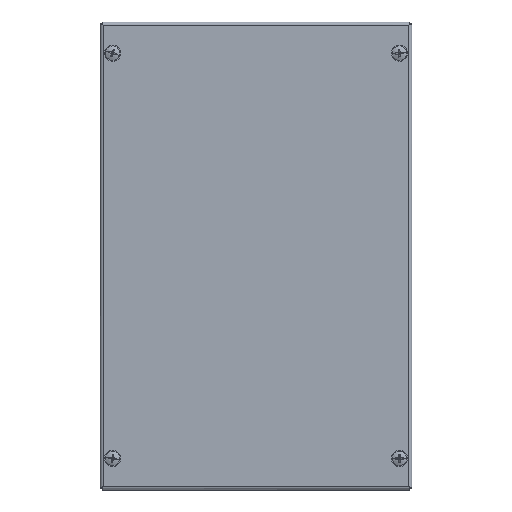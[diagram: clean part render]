
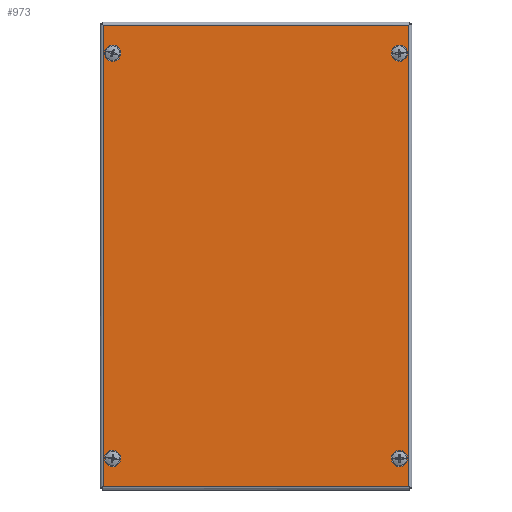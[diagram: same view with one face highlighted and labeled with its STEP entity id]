
A CAD part, top view. The second image highlights one B-rep face of the part: STEP entity #973.
In plain terms, the highlighted planar face has unit normal (0, 0, 1) as drawn and (0, 0, -1) by its records, which use the part's own axes.
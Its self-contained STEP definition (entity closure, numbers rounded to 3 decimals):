
#132 = CIRCLE ( 'NONE', #12108, 4. ) ;
#187 = CARTESIAN_POINT ( 'NONE',  ( -134., -92., -1.2 ) ) ;
#261 = LINE ( 'NONE', #9300, #5181 ) ;
#266 = DIRECTION ( 'NONE',  ( -1., 0., 0. ) ) ;
#347 = AXIS2_PLACEMENT_3D ( 'NONE', #5204, #8581, #13366 ) ;
#648 = FACE_BOUND ( 'NONE', #13507, .T. ) ;
#829 = CARTESIAN_POINT ( 'NONE',  ( 126., 92., -1.2 ) ) ;
#973 = ADVANCED_FACE ( 'NONE', ( #1911, #8789, #648, #11349, #14075 ), #2345, .F. ) ;
#974 = EDGE_CURVE ( 'NONE', #14217, #1042, #1538, .T. ) ;
#1042 = VERTEX_POINT ( 'NONE', #1268 ) ;
#1156 = VERTEX_POINT ( 'NONE', #5686 ) ;
#1188 = CARTESIAN_POINT ( 'NONE',  ( -130., 92., -1.2 ) ) ;
#1268 = CARTESIAN_POINT ( 'NONE',  ( -148.063, 98.063, -1.2 ) ) ;
#1277 = EDGE_CURVE ( 'NONE', #6025, #1156, #7339, .T. ) ;
#1538 = LINE ( 'NONE', #13854, #10983 ) ;
#1584 = CARTESIAN_POINT ( 'NONE',  ( 148.063, 98.093, -1.2 ) ) ;
#1602 = DIRECTION ( 'NONE',  ( 1., 0., 0. ) ) ;
#1606 = CARTESIAN_POINT ( 'NONE',  ( 148.063, 98.063, -1.2 ) ) ;
#1620 = CARTESIAN_POINT ( 'NONE',  ( -126., -92., -1.2 ) ) ;
#1902 = DIRECTION ( 'NONE',  ( 0., 0., 1. ) ) ;
#1911 = FACE_BOUND ( 'NONE', #11113, .T. ) ;
#2000 = EDGE_CURVE ( 'NONE', #8201, #7479, #5704, .T. ) ;
#2148 = DIRECTION ( 'NONE',  ( 0., 0., 1. ) ) ;
#2219 = CIRCLE ( 'NONE', #12511, 4. ) ;
#2240 = DIRECTION ( 'NONE',  ( 0., 1., 0. ) ) ;
#2345 = PLANE ( 'NONE',  #8009 ) ;
#2520 = CIRCLE ( 'NONE', #3367, 4. ) ;
#3071 = DIRECTION ( 'NONE',  ( 1., 0., 0. ) ) ;
#3083 = EDGE_CURVE ( 'NONE', #3264, #9977, #2219, .T. ) ;
#3264 = VERTEX_POINT ( 'NONE', #14198 ) ;
#3367 = AXIS2_PLACEMENT_3D ( 'NONE', #6249, #13128, #4018 ) ;
#3490 = EDGE_LOOP ( 'NONE', ( #4835, #4737 ) ) ;
#3660 = CARTESIAN_POINT ( 'NONE',  ( 130., 92., -1.2 ) ) ;
#3834 = DIRECTION ( 'NONE',  ( 0., 0., 1. ) ) ;
#4018 = DIRECTION ( 'NONE',  ( 1., 0., 0. ) ) ;
#4208 = CARTESIAN_POINT ( 'NONE',  ( -148.093, 98.063, -1.2 ) ) ;
#4289 = CARTESIAN_POINT ( 'NONE',  ( -130., -92., -1.2 ) ) ;
#4486 = DIRECTION ( 'NONE',  ( 1., 0., 0. ) ) ;
#4678 = CIRCLE ( 'NONE', #9978, 4. ) ;
#4737 = ORIENTED_EDGE ( 'NONE', *, *, #12311, .T. ) ;
#4779 = CARTESIAN_POINT ( 'NONE',  ( -130., -92., -1.2 ) ) ;
#4835 = ORIENTED_EDGE ( 'NONE', *, *, #13434, .T. ) ;
#4969 = CARTESIAN_POINT ( 'NONE',  ( 126., -92., -1.2 ) ) ;
#5036 = CIRCLE ( 'NONE', #347, 4. ) ;
#5181 = VECTOR ( 'NONE', #266, 1000. ) ;
#5204 = CARTESIAN_POINT ( 'NONE',  ( -130., 92., -1.2 ) ) ;
#5447 = CARTESIAN_POINT ( 'NONE',  ( 134., -92., -1.2 ) ) ;
#5448 = EDGE_CURVE ( 'NONE', #1042, #6361, #6691, .T. ) ;
#5686 = CARTESIAN_POINT ( 'NONE',  ( 134., 92., -1.2 ) ) ;
#5704 = CIRCLE ( 'NONE', #13864, 4. ) ;
#5985 = VERTEX_POINT ( 'NONE', #10199 ) ;
#6025 = VERTEX_POINT ( 'NONE', #829 ) ;
#6249 = CARTESIAN_POINT ( 'NONE',  ( 130., -92., -1.2 ) ) ;
#6318 = ORIENTED_EDGE ( 'NONE', *, *, #3083, .T. ) ;
#6361 = VERTEX_POINT ( 'NONE', #1606 ) ;
#6535 = EDGE_CURVE ( 'NONE', #6361, #5985, #13543, .T. ) ;
#6545 = EDGE_LOOP ( 'NONE', ( #9814, #13451, #13019, #9679 ) ) ;
#6638 = CIRCLE ( 'NONE', #9845, 4. ) ;
#6691 = LINE ( 'NONE', #4208, #7396 ) ;
#6940 = ORIENTED_EDGE ( 'NONE', *, *, #10286, .T. ) ;
#6984 = CARTESIAN_POINT ( 'NONE',  ( -134., 92., -1.2 ) ) ;
#7021 = DIRECTION ( 'NONE',  ( 1., 0., 0. ) ) ;
#7110 = DIRECTION ( 'NONE',  ( 0., 0., 1. ) ) ;
#7339 = CIRCLE ( 'NONE', #11618, 4. ) ;
#7396 = VECTOR ( 'NONE', #11398, 1000. ) ;
#7479 = VERTEX_POINT ( 'NONE', #187 ) ;
#7674 = CARTESIAN_POINT ( 'NONE',  ( 130., -92., -1.2 ) ) ;
#8009 = AXIS2_PLACEMENT_3D ( 'NONE', #11661, #14962, #15006 ) ;
#8120 = CARTESIAN_POINT ( 'NONE',  ( -148.063, -98.063, -1.2 ) ) ;
#8201 = VERTEX_POINT ( 'NONE', #1620 ) ;
#8531 = CARTESIAN_POINT ( 'NONE',  ( 130., 92., -1.2 ) ) ;
#8581 = DIRECTION ( 'NONE',  ( 0., 0., 1. ) ) ;
#8789 = FACE_BOUND ( 'NONE', #3490, .T. ) ;
#9300 = CARTESIAN_POINT ( 'NONE',  ( 148.093, -98.063, -1.2 ) ) ;
#9591 = DIRECTION ( 'NONE',  ( 0., -1., 0. ) ) ;
#9679 = ORIENTED_EDGE ( 'NONE', *, *, #9979, .T. ) ;
#9814 = ORIENTED_EDGE ( 'NONE', *, *, #974, .T. ) ;
#9845 = AXIS2_PLACEMENT_3D ( 'NONE', #4289, #1902, #3071 ) ;
#9977 = VERTEX_POINT ( 'NONE', #6984 ) ;
#9978 = AXIS2_PLACEMENT_3D ( 'NONE', #7674, #14683, #13611 ) ;
#9979 = EDGE_CURVE ( 'NONE', #5985, #14217, #261, .T. ) ;
#10199 = CARTESIAN_POINT ( 'NONE',  ( 148.063, -98.063, -1.2 ) ) ;
#10286 = EDGE_CURVE ( 'NONE', #7479, #8201, #6638, .T. ) ;
#10612 = VERTEX_POINT ( 'NONE', #5447 ) ;
#10983 = VECTOR ( 'NONE', #2240, 1000. ) ;
#11113 = EDGE_LOOP ( 'NONE', ( #12384, #6940 ) ) ;
#11349 = FACE_BOUND ( 'NONE', #12852, .T. ) ;
#11398 = DIRECTION ( 'NONE',  ( 1., 0., 0. ) ) ;
#11618 = AXIS2_PLACEMENT_3D ( 'NONE', #8531, #3834, #1602 ) ;
#11661 = CARTESIAN_POINT ( 'NONE',  ( 0., 0., -1.2 ) ) ;
#11706 = ORIENTED_EDGE ( 'NONE', *, *, #13282, .T. ) ;
#11773 = DIRECTION ( 'NONE',  ( 0., 0., 1. ) ) ;
#12074 = ORIENTED_EDGE ( 'NONE', *, *, #13774, .T. ) ;
#12108 = AXIS2_PLACEMENT_3D ( 'NONE', #3660, #11773, #12980 ) ;
#12311 = EDGE_CURVE ( 'NONE', #14410, #10612, #2520, .T. ) ;
#12384 = ORIENTED_EDGE ( 'NONE', *, *, #2000, .T. ) ;
#12511 = AXIS2_PLACEMENT_3D ( 'NONE', #1188, #2148, #4486 ) ;
#12852 = EDGE_LOOP ( 'NONE', ( #6318, #11706 ) ) ;
#12980 = DIRECTION ( 'NONE',  ( 1., 0., 0. ) ) ;
#13019 = ORIENTED_EDGE ( 'NONE', *, *, #6535, .T. ) ;
#13128 = DIRECTION ( 'NONE',  ( 0., 0., 1. ) ) ;
#13282 = EDGE_CURVE ( 'NONE', #9977, #3264, #5036, .T. ) ;
#13366 = DIRECTION ( 'NONE',  ( 1., 0., 0. ) ) ;
#13434 = EDGE_CURVE ( 'NONE', #10612, #14410, #4678, .T. ) ;
#13451 = ORIENTED_EDGE ( 'NONE', *, *, #5448, .T. ) ;
#13507 = EDGE_LOOP ( 'NONE', ( #12074, #14552 ) ) ;
#13543 = LINE ( 'NONE', #1584, #14449 ) ;
#13611 = DIRECTION ( 'NONE',  ( 1., 0., 0. ) ) ;
#13774 = EDGE_CURVE ( 'NONE', #1156, #6025, #132, .T. ) ;
#13854 = CARTESIAN_POINT ( 'NONE',  ( -148.063, -98.093, -1.2 ) ) ;
#13864 = AXIS2_PLACEMENT_3D ( 'NONE', #4779, #7110, #7021 ) ;
#14075 = FACE_OUTER_BOUND ( 'NONE', #6545, .T. ) ;
#14198 = CARTESIAN_POINT ( 'NONE',  ( -126., 92., -1.2 ) ) ;
#14217 = VERTEX_POINT ( 'NONE', #8120 ) ;
#14410 = VERTEX_POINT ( 'NONE', #4969 ) ;
#14449 = VECTOR ( 'NONE', #9591, 1000. ) ;
#14552 = ORIENTED_EDGE ( 'NONE', *, *, #1277, .T. ) ;
#14683 = DIRECTION ( 'NONE',  ( 0., 0., 1. ) ) ;
#14962 = DIRECTION ( 'NONE',  ( 0., 0., 1. ) ) ;
#15006 = DIRECTION ( 'NONE',  ( 1., 0., 0. ) ) ;
